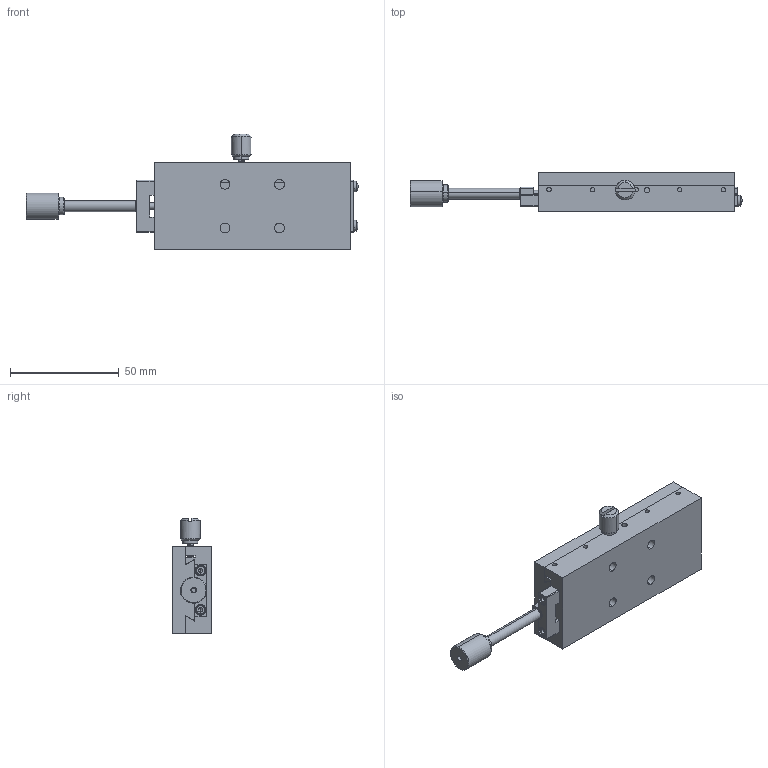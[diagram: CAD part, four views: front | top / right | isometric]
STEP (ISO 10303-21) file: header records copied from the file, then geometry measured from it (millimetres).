
FILE_DESCRIPTION (( 'STEP AP203' ), '1' );
FILE_NAME ('BLBS90.STEP', '2024-02-26T06:56:09', ( 'China' ), ( 'Microsoft' ), 'SwSTEP 2.0', 'SolidWorks 2024', '' );
FILE_SCHEMA (( 'CONFIG_CONTROL_DESIGN' ));
Length unit declared in the file: millimetre
Products named in the file (1): BLBS90
Bounding box: 152.37 x 18 x 53 mm (x, y, z)
Volume: 64109.4 mm3; surface area: 31362.8 mm2
Topology: 15 solids, 17 shells, 1755 faces, 4840 edges, 3163 vertices
Faces by surface type: plane 1034, bspline 383, cylinder 255, cone 71, torus 8, sphere 4
Entity records: 76497 total; most frequent: CARTESIAN_POINT 36647, ORIENTED_EDGE 9604, DIRECTION 5971, EDGE_CURVE 4802, VERTEX_POINT 3163, LINE 2385, VECTOR 2385, B_SPLINE_CURVE_WITH_KNOTS 1955
